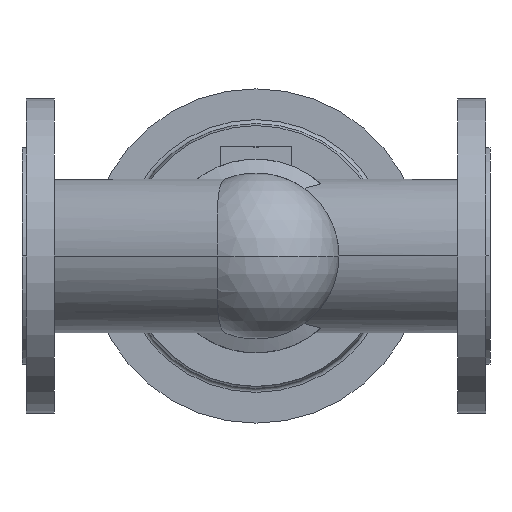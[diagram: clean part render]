
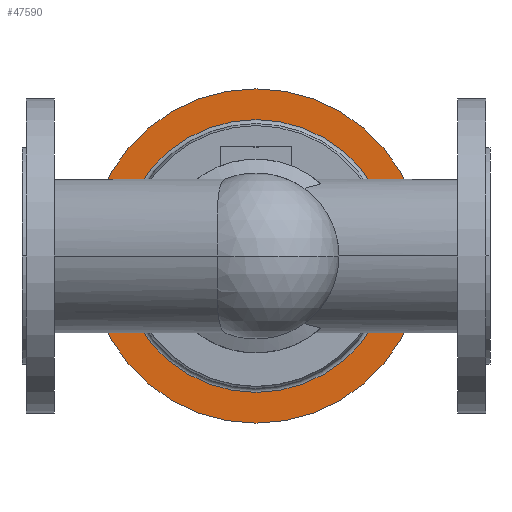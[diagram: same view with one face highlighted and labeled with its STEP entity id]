
A CAD part, front view. The second image highlights one B-rep face of the part: STEP entity #47590.
In plain terms, the highlighted planar face has unit normal (0, -1, 0).
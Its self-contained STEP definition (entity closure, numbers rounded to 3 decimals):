
#33840=CARTESIAN_POINT('',(50.,444.,0.));
#33850=VERTEX_POINT('',#33840);
#33880=CARTESIAN_POINT('',(175.,444.,0.));
#33890=DIRECTION('',(0.,1.,0.));
#33900=DIRECTION('',(1.,0.,0.));
#33910=AXIS2_PLACEMENT_3D('',#33880,#33890,#33900);
#33920=CIRCLE('',#33910,125.);
#33930=CARTESIAN_POINT('',(300.,444.,0.));
#33940=VERTEX_POINT('',#33930);
#33950=EDGE_CURVE('',#33940,#33850,#33920,.T.);
#34200=CARTESIAN_POINT('',(175.,444.,0.));
#34210=DIRECTION('',(0.,1.,0.));
#34220=DIRECTION('',(1.,0.,0.));
#34230=AXIS2_PLACEMENT_3D('',#34200,#34210,#34220);
#34240=CIRCLE('',#34230,102.);
#34250=CARTESIAN_POINT('',(175.,444.,102.));
#34260=VERTEX_POINT('',#34250);
#34270=CARTESIAN_POINT('',(277.,444.,0.));
#34280=VERTEX_POINT('',#34270);
#34290=EDGE_CURVE('',#34260,#34280,#34240,.T.);
#34540=CARTESIAN_POINT('',(73.,444.,0.));
#34550=VERTEX_POINT('',#34540);
#34580=EDGE_CURVE('',#34550,#34260,#34240,.T.);
#47430=CARTESIAN_POINT('',(288.5,444.,0.));
#47440=DIRECTION('',(0.,-1.,0.));
#47450=DIRECTION('',(-1.,0.,0.));
#47460=AXIS2_PLACEMENT_3D('',#47430,#47440,#47450);
#47470=PLANE('',#47460);
#47480=EDGE_CURVE('',#33850,#33940,#33920,.T.);
#47490=ORIENTED_EDGE('',*,*,#47480,.F.);
#47500=ORIENTED_EDGE('',*,*,#33950,.F.);
#47510=EDGE_LOOP('',(#47500,#47490));
#47520=FACE_OUTER_BOUND('',#47510,.T.);
#47530=EDGE_CURVE('',#34280,#34550,#34240,.T.);
#47540=ORIENTED_EDGE('',*,*,#47530,.T.);
#47550=ORIENTED_EDGE('',*,*,#34290,.T.);
#47560=ORIENTED_EDGE('',*,*,#34580,.T.);
#47570=EDGE_LOOP('',(#47560,#47550,#47540));
#47580=FACE_BOUND('',#47570,.T.);
#47590=ADVANCED_FACE('',(#47520,#47580),#47470,.T.);
